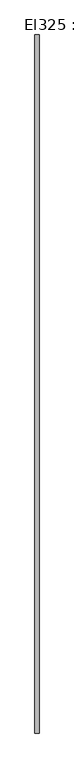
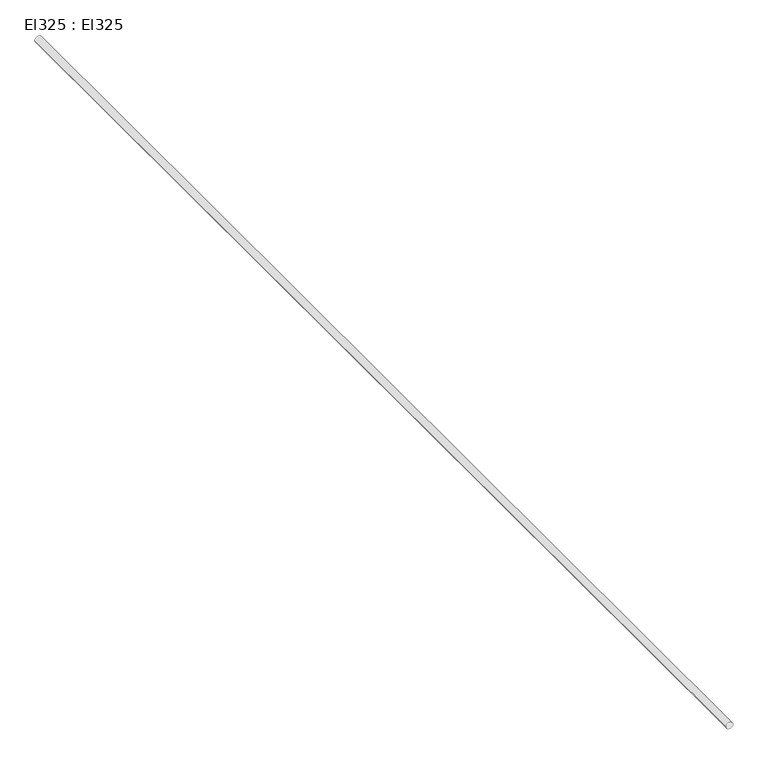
"""IFC4 building model written with IfcOpenShell, lengths in millimetres: cable carrier segment geometry, El325 : El325."""

from ifc_helpers import new_model, si_unit, point, frame, frame_2d, origin, place, context, project, spatial, circle_curve, trimmed, segment, composite_curve, outline, extrude, source, transform, mapped, element, save


def el325_el325_f688f8c8(model_context):
    return source(origin(), model_context, "Body", "SweptSolid", [
        extrude(outline(composite_curve([segment(trimmed(circle_curve(frame_2d((2950.0, 12683.3)), 9.5), [point((2950.0, 12673.8))], [point((2950.0, 12692.8))], False, "CARTESIAN"), True, "CONTINUOUS"), segment(trimmed(circle_curve(frame_2d((2950.0, 12683.3)), 9.5), [point((2950.0, 12692.8))], [point((2950.0, 12673.8))], False, "CARTESIAN"), True, "CONTINUOUS")], self_intersect=False)), frame((0.0, 3528.71, 0.0), z_axis=(0.0, 1.0, 0.0), x_axis=(0.0, 0.0, 1.0)), (0.0, 0.0, 1.0), 3214.99),
    ])


if __name__ == "__main__":
    model = new_model("IFC4")
    model_context = context("Model", 3, world=origin())
    ifc_project = project(units=[si_unit("LENGTHUNIT", "METRE", prefix="MILLI")], contexts=[model_context])
    site = spatial("IfcSite", under=ifc_project)
    building = spatial("IfcBuilding", under=site)
    placement = place(None, origin())
    el325_el325_shape = el325_el325_f688f8c8(model_context)
    element("IfcCableCarrierSegment", 1, ObjectType="El325 : El325", at=placement, inside=building, context=model_context, shape_type="MappedRepresentation", body=[
        mapped(el325_el325_shape, transform((0.0, 0.0, 0.0), x_axis=(1.0, 0.0, 0.0), y_axis=(0.0, 1.0, 0.0), z_axis=(0.0, 0.0, 1.0))),
    ])
    save(model, "model.ifc")
